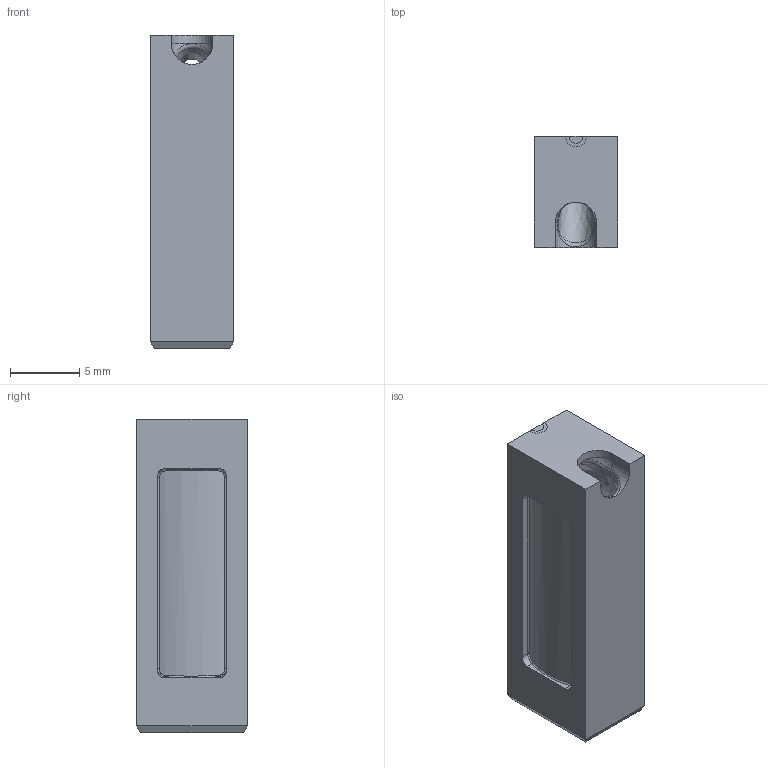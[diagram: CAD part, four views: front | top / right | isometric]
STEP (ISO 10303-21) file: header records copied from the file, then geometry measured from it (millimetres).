
FILE_DESCRIPTION((''),'2;1');
FILE_NAME('TGS8-06-S1','2007-11-27T',('tmeister'),(''),'PRO/ENGINEER BY PARAMETRIC TECHNOLOGY CORPORATION, 2002390','PRO/ENGINEER BY PARAMETRIC TECHNOLOGY CORPORATION, 2002390','');
FILE_SCHEMA(('CONFIG_CONTROL_DESIGN'));
Length unit declared in the file: millimetre
Products named in the file (1): TGS8-06-S1
Bounding box: 6 x 8 x 22.6 mm (x, y, z)
Volume: 833.3 mm3; surface area: 1146.7 mm2
Topology: 1 solids, 3 shells, 73 faces, 250 edges, 178 vertices
Faces by surface type: plane 22, cylinder 22, bspline 18, cone 6, sphere 3, torus 2
Entity records: 4905 total; most frequent: CARTESIAN_POINT 3006, DIRECTION 346, ORIENTED_EDGE 339, EDGE_CURVE 174, AXIS2_PLACEMENT_3D 123, VERTEX_POINT 106, VECTOR 100, LINE 100
